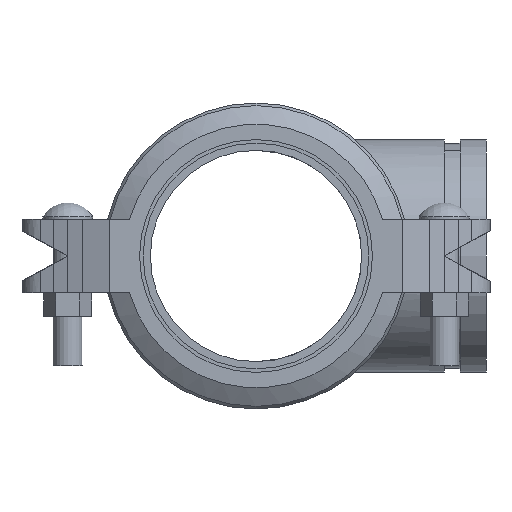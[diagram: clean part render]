
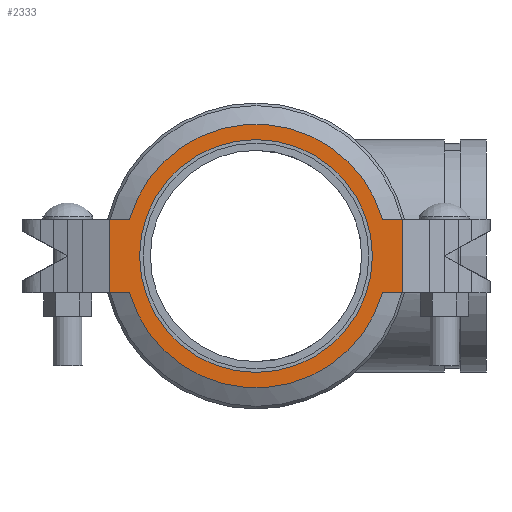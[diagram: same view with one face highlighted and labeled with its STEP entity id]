
A CAD part, left-side view. The second image highlights one B-rep face of the part: STEP entity #2333.
In plain terms, the highlighted planar face has unit normal (-1, 0, 0) as drawn and (0, 0, 1) by its records, which use the part's own axes.
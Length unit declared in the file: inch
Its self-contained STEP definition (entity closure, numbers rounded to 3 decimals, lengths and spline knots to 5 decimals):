
#94=FACE_BOUND('',#372,.T.);
#140=PLANE('',#2634);
#235=FACE_OUTER_BOUND('',#371,.T.);
#371=EDGE_LOOP('',(#1746,#1747,#1748,#1749,#1750,#1751,#1752,#1753));
#372=EDGE_LOOP('',(#1754,#1755));
#519=LINE('',#3784,#688);
#532=LINE('',#3818,#701);
#533=LINE('',#3822,#702);
#534=LINE('',#3824,#703);
#535=LINE('',#3826,#704);
#536=LINE('',#3829,#705);
#688=VECTOR('',#3090,0.3937);
#701=VECTOR('',#3129,0.3937);
#702=VECTOR('',#3132,0.3937);
#703=VECTOR('',#3133,0.3937);
#704=VECTOR('',#3134,0.3937);
#705=VECTOR('',#3137,0.3937);
#852=CIRCLE('',#2635,3.15);
#853=CIRCLE('',#2636,3.15);
#854=CIRCLE('',#2637,2.7815);
#855=CIRCLE('',#2638,2.7815);
#1015=VERTEX_POINT('',#3781);
#1016=VERTEX_POINT('',#3783);
#1024=VERTEX_POINT('',#3817);
#1025=VERTEX_POINT('',#3819);
#1026=VERTEX_POINT('',#3821);
#1027=VERTEX_POINT('',#3823);
#1028=VERTEX_POINT('',#3825);
#1029=VERTEX_POINT('',#3827);
#1030=VERTEX_POINT('',#3830);
#1031=VERTEX_POINT('',#3831);
#1275=EDGE_CURVE('',#1016,#1015,#519,.T.);
#1291=EDGE_CURVE('',#1015,#1024,#532,.T.);
#1292=EDGE_CURVE('',#1025,#1024,#852,.T.);
#1293=EDGE_CURVE('',#1026,#1025,#533,.T.);
#1294=EDGE_CURVE('',#1026,#1027,#534,.T.);
#1295=EDGE_CURVE('',#1027,#1028,#535,.T.);
#1296=EDGE_CURVE('',#1029,#1028,#853,.T.);
#1297=EDGE_CURVE('',#1016,#1029,#536,.T.);
#1298=EDGE_CURVE('',#1030,#1031,#854,.T.);
#1299=EDGE_CURVE('',#1031,#1030,#855,.T.);
#1746=ORIENTED_EDGE('',*,*,#1275,.T.);
#1747=ORIENTED_EDGE('',*,*,#1291,.T.);
#1748=ORIENTED_EDGE('',*,*,#1292,.F.);
#1749=ORIENTED_EDGE('',*,*,#1293,.F.);
#1750=ORIENTED_EDGE('',*,*,#1294,.T.);
#1751=ORIENTED_EDGE('',*,*,#1295,.T.);
#1752=ORIENTED_EDGE('',*,*,#1296,.F.);
#1753=ORIENTED_EDGE('',*,*,#1297,.F.);
#1754=ORIENTED_EDGE('',*,*,#1298,.T.);
#1755=ORIENTED_EDGE('',*,*,#1299,.T.);
#2333=ADVANCED_FACE('',(#235,#94),#140,.T.);
#2634=AXIS2_PLACEMENT_3D('',#3816,#3127,#3128);
#2635=AXIS2_PLACEMENT_3D('',#3820,#3130,#3131);
#2636=AXIS2_PLACEMENT_3D('',#3828,#3135,#3136);
#2637=AXIS2_PLACEMENT_3D('',#3832,#3138,#3139);
#2638=AXIS2_PLACEMENT_3D('',#3833,#3140,#3141);
#3090=DIRECTION('',(0.,-1.,0.));
#3127=DIRECTION('center_axis',(0.,0.,1.));
#3128=DIRECTION('ref_axis',(1.,0.,0.));
#3129=DIRECTION('',(1.,0.,0.));
#3130=DIRECTION('center_axis',(0.,0.,-1.));
#3131=DIRECTION('ref_axis',(-1.,0.,0.));
#3132=DIRECTION('',(-1.,0.,0.));
#3133=DIRECTION('',(0.,1.,0.));
#3134=DIRECTION('',(-1.,0.,0.));
#3135=DIRECTION('center_axis',(0.,0.,-1.));
#3136=DIRECTION('ref_axis',(-1.,0.,0.));
#3137=DIRECTION('',(1.,0.,0.));
#3138=DIRECTION('center_axis',(0.,0.,-1.));
#3139=DIRECTION('ref_axis',(-1.,0.,0.));
#3140=DIRECTION('center_axis',(0.,0.,-1.));
#3141=DIRECTION('ref_axis',(-1.,0.,0.));
#3781=CARTESIAN_POINT('',(-3.5,-0.88,1.1225));
#3783=CARTESIAN_POINT('',(-3.5,0.88,1.1225));
#3784=CARTESIAN_POINT('',(-3.5,2.015,1.1225));
#3816=CARTESIAN_POINT('Origin',(0.,3.15,1.1225));
#3817=CARTESIAN_POINT('',(-3.02458,-0.88,1.1225));
#3818=CARTESIAN_POINT('',(-5.59117,-0.88,1.1225));
#3819=CARTESIAN_POINT('',(3.02458,-0.88,1.1225));
#3820=CARTESIAN_POINT('Origin',(0.,0.,1.1225));
#3821=CARTESIAN_POINT('',(3.5,-0.88,1.1225));
#3822=CARTESIAN_POINT('',(5.59117,-0.88,1.1225));
#3823=CARTESIAN_POINT('',(3.5,0.88,1.1225));
#3824=CARTESIAN_POINT('',(3.5,2.015,1.1225));
#3825=CARTESIAN_POINT('',(3.02458,0.88,1.1225));
#3826=CARTESIAN_POINT('',(5.59117,0.88,1.1225));
#3827=CARTESIAN_POINT('',(-3.02458,0.88,1.1225));
#3828=CARTESIAN_POINT('Origin',(0.,0.,1.1225));
#3829=CARTESIAN_POINT('',(-5.59117,0.88,1.1225));
#3830=CARTESIAN_POINT('',(0.,2.7815,1.1225));
#3831=CARTESIAN_POINT('',(0.,-2.7815,1.1225));
#3832=CARTESIAN_POINT('Origin',(0.,0.,1.1225));
#3833=CARTESIAN_POINT('Origin',(0.,0.,1.1225));
